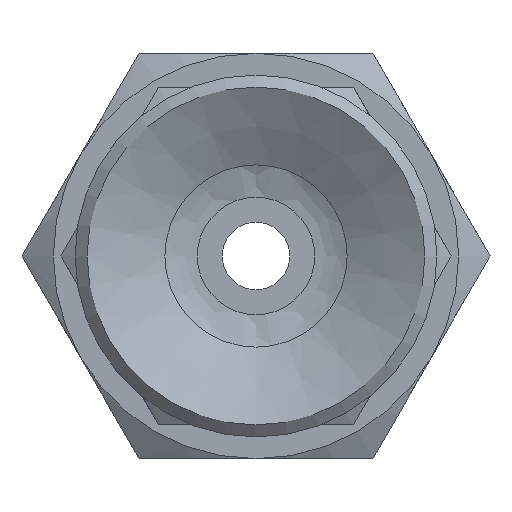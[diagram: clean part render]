
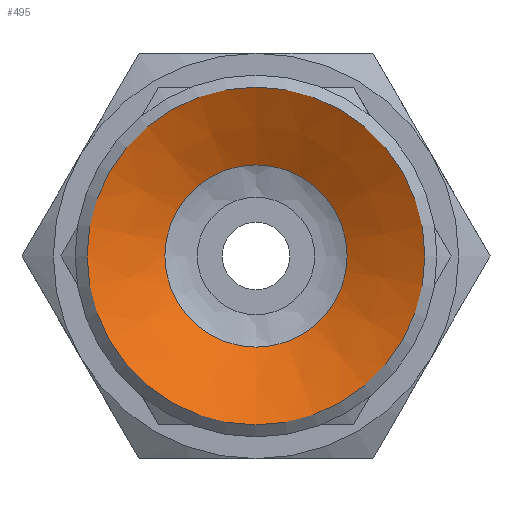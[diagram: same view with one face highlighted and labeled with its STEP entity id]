
A CAD part, front view. The second image highlights one B-rep face of the part: STEP entity #495.
In plain terms, the highlighted conical face has half-angle 61.39 degrees and reference radius 2.25 mm.
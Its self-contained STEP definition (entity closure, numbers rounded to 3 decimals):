
#495=ADVANCED_FACE('',(#741,#742),#743,.F.);
#741=FACE_BOUND('',#990,.T.);
#742=FACE_OUTER_BOUND('',#991,.T.);
#743=CONICAL_SURFACE('',#992,2.25,1.071);
#990=EDGE_LOOP('',(#1674));
#991=EDGE_LOOP('',(#1675));
#992=AXIS2_PLACEMENT_3D('',#1676,#1677,#1678);
#1674=ORIENTED_EDGE('',*,*,#1857,.T.);
#1675=ORIENTED_EDGE('',*,*,#1852,.T.);
#1676=CARTESIAN_POINT('',(0.0,1.5,0.0));
#1677=DIRECTION('',(-0.0,-1.0,0.));
#1678=DIRECTION('',(0.0,0.,-1.0));
#1852=EDGE_CURVE('',#2148,#2148,#2149,.T.);
#1857=EDGE_CURVE('',#2158,#2158,#2159,.T.);
#2148=VERTEX_POINT('',#2796);
#2149=CIRCLE('',#2797,5.);
#2158=VERTEX_POINT('',#2806);
#2159=CIRCLE('',#2807,2.698);
#2796=CARTESIAN_POINT('',(0.0,0.,-5.));
#2797=AXIS2_PLACEMENT_3D('',#3061,#3062,#3063);
#2806=CARTESIAN_POINT('',(0.0,1.256,-2.698));
#2807=AXIS2_PLACEMENT_3D('',#3076,#3077,#3078);
#3061=CARTESIAN_POINT('',(0.0,0.0,0.0));
#3062=DIRECTION('',(0.0,-1.0,0.));
#3063=DIRECTION('',(0.0,0.,-1.0));
#3076=CARTESIAN_POINT('',(0.0,1.256,0.0));
#3077=DIRECTION('',(0.0,1.0,0.));
#3078=DIRECTION('',(0.0,0.,-1.0));
